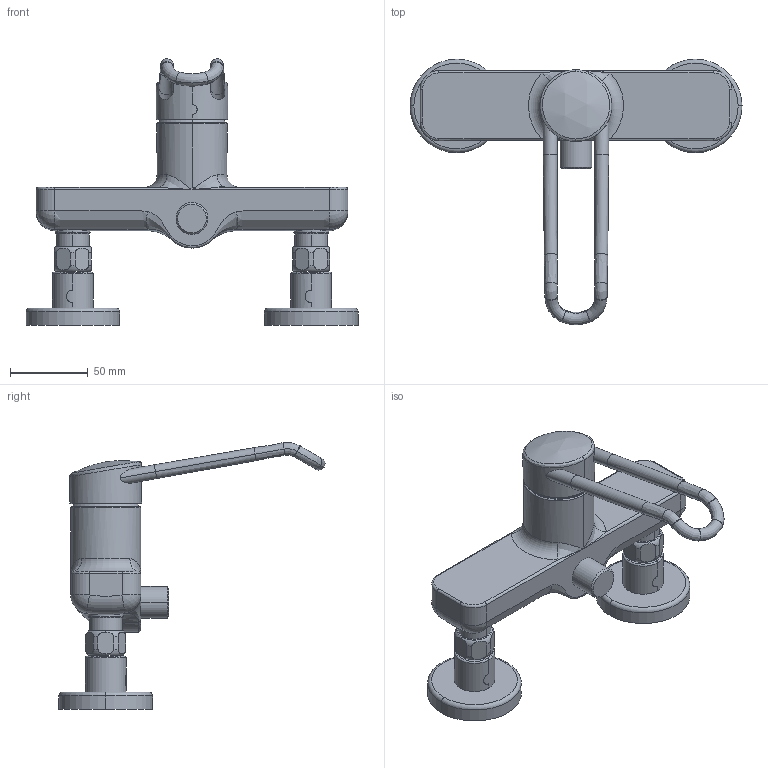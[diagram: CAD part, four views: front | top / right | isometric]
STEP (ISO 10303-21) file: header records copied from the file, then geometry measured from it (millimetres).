
FILE_DESCRIPTION((''),'2;1');
FILE_NAME('21522310','2020-08-05T16:18:21',('SN986'),(''),'CREO PARAMETRIC BY PTC INC, 2018500','CREO PARAMETRIC BY PTC INC, 2018500','');
FILE_SCHEMA(('CONFIG_CONTROL_DESIGN'));
Length unit declared in the file: millimetre
Products named in the file (1): 21522310
Bounding box: 213 x 170.68 x 170.94 mm (x, y, z)
Volume: 482670.7 mm3; surface area: 69368.6 mm2
Topology: 3 solids, 3 shells, 183 faces, 410 edges, 242 vertices
Faces by surface type: cylinder 52, bspline 44, torus 42, plane 32, sphere 7, cone 6
Entity records: 11035 total; most frequent: CARTESIAN_POINT 7216, ORIENTED_EDGE 820, DIRECTION 741, EDGE_CURVE 410, AXIS2_PLACEMENT_3D 329, VERTEX_POINT 242, EDGE_LOOP 194, CIRCLE 190
